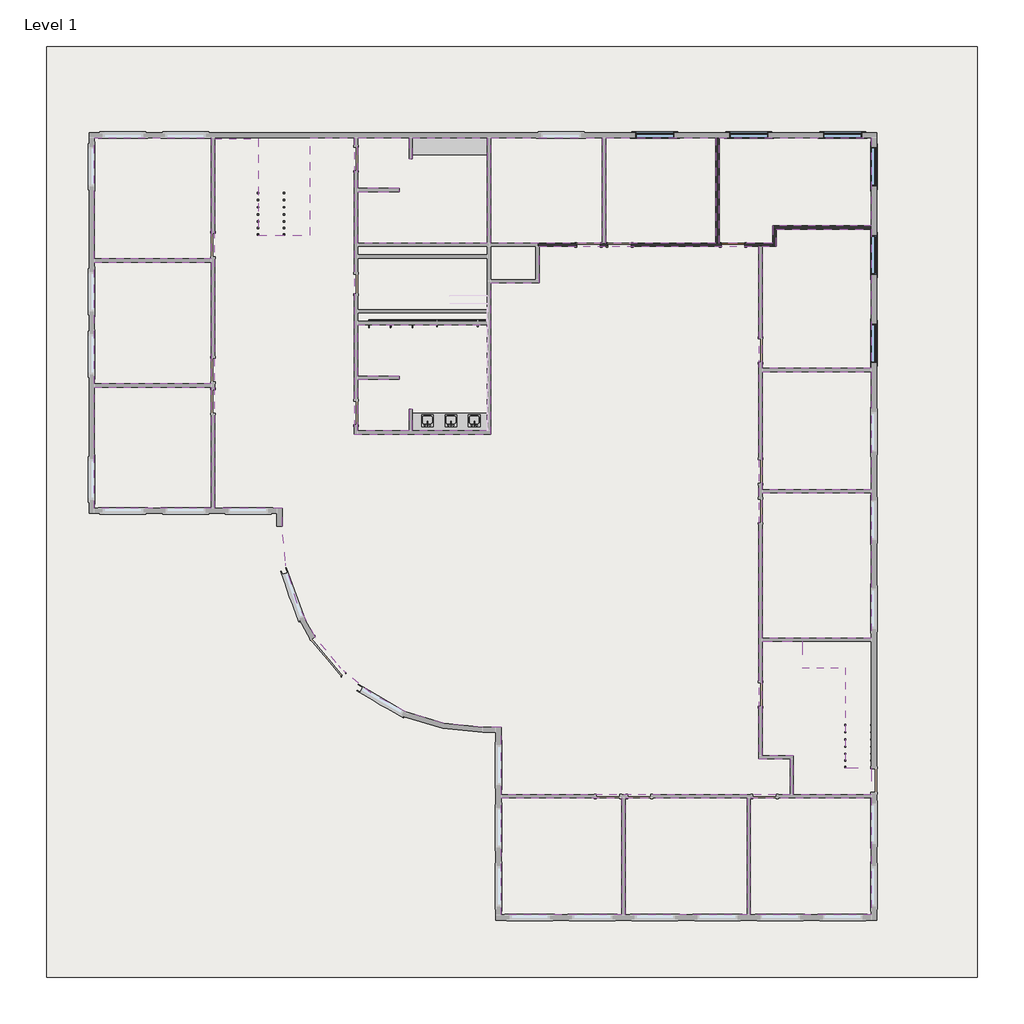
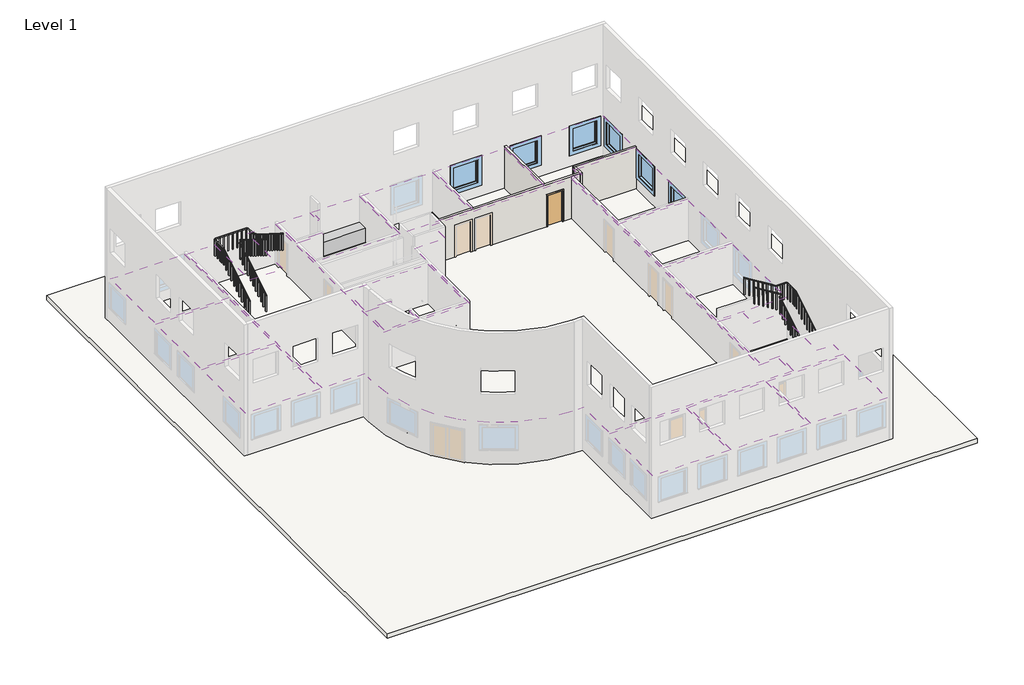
# One storey, part 3 of 4: 16 coverings, 14 pipe segments, 12 pipe fittings, 6 windows, 4 railings, 4 walls, 3 flow terminals, 2 furniture elements, 2 other elements.
"""IFC4 building model written with IfcOpenShell, lengths in millimetres."""

from ifc_helpers import new_model, si_unit, point, frame, frame_2d, origin, origin_with_axes, place, context, project, spatial, polyline, circle_curve, trimmed, segment, composite_curve, outline, extrude, faceted_brep, transform, mapped, element, save
from components import door_5c18bfee, sink_single_island_private_d5797e09, restroom_cabinet_restroom_cabinet_f470e7f9, restroom_cabinet2_restroom_cabinet_0fb46be3, pipe_elbow_standard_aad62f2d, pipe_elbow_standard_feaaf02c, pipe_tee_standard_ee363fbf, pipe_transition_eccentric_standard_c40806be, stairs_railing_1_c8549f34, stairs_railing_1_2e6ad486, stairs_railing_1_e688fe42, stairs_railing_1_87609967, fixed_edddcce4

model = new_model("IFC4")

# Units and contexts
model_context = context("Model", 3, world=origin())
ifc_project = project(units=[si_unit("LENGTHUNIT", "METRE", prefix="MILLI")], contexts=[model_context])

# Site, building, storey
site = spatial("IfcSite", under=ifc_project)
building = spatial("IfcBuilding", under=site)
storey = spatial("IfcBuildingStorey", under=building, Name="Level 1", Elevation=0.0)

# Coverings
placement = place(None, origin())
element("IfcCovering", 1, ObjectType="2' x 2' ACT System", at=placement, inside=storey, context=model_context, shape_type="SweptSolid", body=[
    extrude(outline(polyline([(-4905.3842504, 14991.2099268), (-344.4967504, 14991.2099268), (-344.4967504, 10279.5099268), (-4905.3842504, 10279.5099268), (-4905.3842504, 14991.2099268)])), frame((0.0, 0.0, 2590.8), z_axis=(0.0, 0.0, 1.0), x_axis=(1.0, 0.0, 0.0)), (0.0, 0.0, 1.0), 57.15),
])
element("IfcCovering", 2, ObjectType="2' x 2' ACT System", at=placement, inside=storey, context=model_context, shape_type="SweptSolid", body=[
    extrude(outline(polyline([(-344.4967504, 5402.7099268), (-4905.3842504, 5402.7099268), (-4905.3842504, 10152.5099268), (-344.4967504, 10152.5099268), (-344.4967504, 5402.7099268)])), frame((0.0, 0.0, 2590.8), z_axis=(0.0, 0.0, 1.0), x_axis=(1.0, 0.0, 0.0)), (0.0, 0.0, 1.0), 57.15),
])
element("IfcCovering", 3, ObjectType="2' x 2' ACT System", at=placement, inside=storey, context=model_context, shape_type="SweptSolid", body=[
    extrude(outline(polyline([(-4905.3842504, 564.0099268), (-4905.3842504, 5275.7099268), (-344.4967504, 5275.7099268), (-344.4967504, 564.0099268), (-4905.3842504, 564.0099268)])), frame((0.0, 0.0, 2590.8), z_axis=(0.0, 0.0, 1.0), x_axis=(1.0, 0.0, 0.0)), (0.0, 0.0, 1.0), 57.15),
])
element("IfcCovering", 4, ObjectType="2' x 2' ACT System", at=placement, inside=storey, context=model_context, shape_type="SweptSolid", body=[
    extrude(outline(composite_curve([segment(polyline([(-220.6717504, 564.0099268), (-220.6717504, 14958.3758882), (1474.1668833, 14958.3758882), (1474.1668833, 11199.1758882), (3514.168982, 11199.1758882), (3514.168982, 14991.2099268), (5229.2157496, 14991.2099268), (5229.2157496, 3446.9099268), (10537.8157496, 3446.9099268), (10537.8157496, 9339.7099268), (12430.1157496, 9339.7099268), (12430.1157496, 10762.1099268), (20989.9157496, 10762.1099268), (20989.9157496, -9202.2900732), (22209.1157496, -9202.2900732), (22209.1157496, -10599.2900732), (10944.2157496, -10599.2900732), (10944.2157496, -7970.3900732), (10233.0157496, -7970.3900732)]), True, "CONTINUOUS"), segment(trimmed(circle_curve(frame_2d((10233.0157496, -147.1900732)), 7823.2), [point((10233.0157496, -7970.3900732))], [point((2409.8157496, -147.1900732))], False, "CARTESIAN"), True, "CONTINUOUS"), segment(polyline([(2409.8157496, -147.1900732), (2409.8157496, 564.0099268), (-220.6717504, 564.0099268)]), True, "CONTINUOUS")], self_intersect=False)), frame((0.0, 0.0, 2590.8), z_axis=(0.0, 0.0, 1.0), x_axis=(1.0, 0.0, 0.0)), (0.0, 0.0, 1.0), 57.15),
])
element("IfcCovering", 5, ObjectType="2' x 2' ACT System", at=placement, inside=storey, context=model_context, shape_type="SweptSolid", body=[
    extrude(outline(polyline([(5356.2157496, 13022.7099268), (5356.2157496, 14991.2099268), (7362.8157496, 14991.2099268), (7362.8157496, 14178.4099268), (7489.8157496, 14178.4099268), (7489.8157496, 14991.2099268), (10410.8157496, 14991.2099268), (10410.8157496, 10889.1099268), (5356.2157496, 10889.1099268), (5356.2157496, 12895.7099268), (6969.1157496, 12895.7099268), (6969.1157496, 13022.7099268), (5356.2157496, 13022.7099268)])), frame((0.0, 0.0, 2590.8), z_axis=(0.0, 0.0, 1.0), x_axis=(1.0, 0.0, 0.0)), (0.0, 0.0, 1.0), 57.15),
])
element("IfcCovering", 6, ObjectType="2' x 2' ACT System", at=placement, inside=storey, context=model_context, shape_type="SweptSolid", body=[
    extrude(outline(polyline([(6969.1157496, 5707.5099268), (5356.2157496, 5707.5099268), (5356.2157496, 7714.1099268), (10410.8157496, 7714.1099268), (10410.8157496, 3573.9099268), (7489.8157496, 3573.9099268), (7489.8157496, 4424.8099268), (7362.8157496, 4424.8099268), (7362.8157496, 3573.9099268), (5356.2157496, 3573.9099268), (5356.2157496, 5580.5099268), (6969.1157496, 5580.5099268), (6969.1157496, 5707.5099268)])), frame((0.0, 0.0, 2590.8), z_axis=(0.0, 0.0, 1.0), x_axis=(1.0, 0.0, 0.0)), (0.0, 0.0, 1.0), 57.15),
])
element("IfcCovering", 7, ObjectType="2' x 2' ACT System", at=placement, inside=storey, context=model_context, shape_type="SweptSolid", body=[
    extrude(outline(polyline([(10537.8157496, 10889.1099268), (10537.8157496, 14991.2099268), (14893.9157496, 14991.2099268), (14893.9157496, 10889.1099268), (10537.8157496, 10889.1099268)])), frame((0.0, 0.0, 2590.8), z_axis=(0.0, 0.0, 1.0), x_axis=(1.0, 0.0, 0.0)), (0.0, 0.0, 1.0), 57.15),
])
element("IfcCovering", 8, ObjectType="2' x 2' ACT System", at=placement, inside=storey, context=model_context, shape_type="SweptSolid", body=[
    extrude(outline(polyline([(15020.9157496, 10889.1099268), (15020.9157496, 14991.2099268), (19313.5157496, 14991.2099268), (19313.5157496, 10889.1099268), (15020.9157496, 10889.1099268)])), frame((0.0, 0.0, 2590.8), z_axis=(0.0, 0.0, 1.0), x_axis=(1.0, 0.0, 0.0)), (0.0, 0.0, 1.0), 57.15),
])
element("IfcCovering", 9, ObjectType="2' x 2' ACT System", at=placement, inside=storey, context=model_context, shape_type="SweptSolid", body=[
    extrude(outline(polyline([(19440.5157496, 10889.1099268), (19440.5157496, 14991.2099268), (25371.4157496, 14991.2099268), (25371.4157496, 11559.8286768), (21536.0157496, 11559.8286768), (21536.0157496, 10889.1099268), (19440.5157496, 10889.1099268)])), frame((0.0, 0.0, 2590.8), z_axis=(0.0, 0.0, 1.0), x_axis=(1.0, 0.0, 0.0)), (0.0, 0.0, 1.0), 57.15),
])
element("IfcCovering", 10, ObjectType="2' x 2' ACT System", at=placement, inside=storey, context=model_context, shape_type="SweptSolid", body=[
    extrude(outline(polyline([(21663.0157496, 11432.8286768), (25371.4157496, 11432.8286768), (25371.4157496, 6012.3099268), (21116.9157496, 6012.3099268), (21116.9157496, 10762.1099268), (21663.0157496, 10762.1099268), (21663.0157496, 11432.8286768)])), frame((0.0, 0.0, 2590.8), z_axis=(0.0, 0.0, 1.0), x_axis=(1.0, 0.0, 0.0)), (0.0, 0.0, 1.0), 57.15),
])
element("IfcCovering", 11, ObjectType="2' x 2' ACT System", at=placement, inside=storey, context=model_context, shape_type="SweptSolid", body=[
    extrude(outline(polyline([(25371.4157496, 5885.3099268), (25371.4157496, 1287.9099268), (21116.9157496, 1287.9099268), (21116.9157496, 5885.3099268), (25371.4157496, 5885.3099268)])), frame((0.0, 0.0, 2590.8), z_axis=(0.0, 0.0, 1.0), x_axis=(1.0, 0.0, 0.0)), (0.0, 0.0, 1.0), 57.15),
])
element("IfcCovering", 12, ObjectType="2' x 2' ACT System", at=placement, inside=storey, context=model_context, shape_type="SweptSolid", body=[
    extrude(outline(polyline([(25371.4157496, 1160.9099268), (25371.4157496, -4503.2900732), (21116.9157496, -4503.2900732), (21116.9157496, 1160.9099268), (25371.4157496, 1160.9099268)])), frame((0.0, 0.0, 2590.8), z_axis=(0.0, 0.0, 1.0), x_axis=(1.0, 0.0, 0.0)), (0.0, 0.0, 1.0), 57.15),
])
element("IfcCovering", 13, ObjectType="2' x 2' ACT System", at=placement, inside=storey, context=model_context, shape_type="SweptSolid", body=[
    extrude(outline(polyline([(22679.0157496, -4630.2900732), (22679.0157496, -5654.4521901), (24355.4157496, -5654.4521901), (24355.4157496, -9540.6521901), (25371.4157496, -9540.6521901), (25371.4157496, -10599.2900732), (22336.1157496, -10599.2900732), (22336.1157496, -9075.2900732), (21116.9157496, -9075.2900732), (21116.9157496, -4630.2900732), (22679.0157496, -4630.2900732)])), frame((0.0, 0.0, 2590.8), z_axis=(0.0, 0.0, 1.0), x_axis=(1.0, 0.0, 0.0)), (0.0, 0.0, 1.0), 57.15),
])
element("IfcCovering", 14, ObjectType="2' x 2' ACT System", at=placement, inside=storey, context=model_context, shape_type="SweptSolid", body=[
    extrude(outline(polyline([(20659.7157496, -10726.2900732), (25371.4157496, -10726.2900732), (25371.4157496, -15285.5900732), (20659.7157496, -15285.5900732), (20659.7157496, -10726.2900732)])), frame((0.0, 0.0, 2590.8), z_axis=(0.0, 0.0, 1.0), x_axis=(1.0, 0.0, 0.0)), (0.0, 0.0, 1.0), 57.15),
])
element("IfcCovering", 15, ObjectType="2' x 2' ACT System", at=placement, inside=storey, context=model_context, shape_type="SweptSolid", body=[
    extrude(outline(polyline([(20532.7157496, -15285.5900732), (15782.9157496, -15285.5900732), (15782.9157496, -10726.2900732), (20532.7157496, -10726.2900732), (20532.7157496, -15285.5900732)])), frame((0.0, 0.0, 2590.8), z_axis=(0.0, 0.0, 1.0), x_axis=(1.0, 0.0, 0.0)), (0.0, 0.0, 1.0), 57.15),
])
element("IfcCovering", 16, ObjectType="2' x 2' ACT System", at=placement, inside=storey, context=model_context, shape_type="SweptSolid", body=[
    extrude(outline(polyline([(15655.9157496, -15285.5900732), (10944.2157496, -15285.5900732), (10944.2157496, -10726.2900732), (15655.9157496, -10726.2900732), (15655.9157496, -15285.5900732)])), frame((0.0, 0.0, 2590.8), z_axis=(0.0, 0.0, 1.0), x_axis=(1.0, 0.0, 0.0)), (0.0, 0.0, 1.0), 57.15),
])

# Door
door_shape = door_5c18bfee(model_context)
element("IfcDoor", 17, ObjectType="Sgl Flush : 36\" x 80\"", at=placement, inside=storey, context=model_context, shape_type="MappedRepresentation", body=[
    mapped(door_shape, transform((19986.6157496, 10825.6099268, 0.0), x_axis=(-1.0, 0.0, 0.0), y_axis=(0.0, -1.0, 0.0), z_axis=(0.0, 0.0, 1.0))),
])

# Flow terminals
sink_single_island_private_shape = sink_single_island_private_d5797e09(model_context)
element("IfcFlowTerminal", 18, ObjectType="Sink - Single Island : Private", at=placement, inside=storey, context=model_context, shape_type="MappedRepresentation", body=[
    mapped(sink_single_island_private_shape, transform((8074.0157496, 3967.6099268, 914.4), x_axis=(-1.0, 0.0, 0.0), y_axis=(0.0, -1.0, 0.0), z_axis=(0.0, 0.0, 1.0))),
])
element("IfcFlowTerminal", 19, ObjectType="Sink - Single Island : Private", at=placement, inside=storey, context=model_context, shape_type="MappedRepresentation", body=[
    mapped(sink_single_island_private_shape, transform((8988.4157496, 3967.6099268, 914.4), x_axis=(-1.0, 0.0, 0.0), y_axis=(0.0, -1.0, 0.0), z_axis=(0.0, 0.0, 1.0))),
])
element("IfcFlowTerminal", 20, ObjectType="Sink - Single Island : Private", at=placement, inside=storey, context=model_context, shape_type="MappedRepresentation", body=[
    mapped(sink_single_island_private_shape, transform((9902.8157496, 3967.6099268, 914.4), x_axis=(-1.0, 0.0, 0.0), y_axis=(0.0, -1.0, 0.0), z_axis=(0.0, 0.0, 1.0))),
])

# Furniture
restroom_cabinet_restroom_cabinet_shape = restroom_cabinet_restroom_cabinet_f470e7f9(model_context)
element("IfcFurniture", 21, ObjectType="Restroom Cabinet : Restroom Cabinet", at=placement, inside=storey, context=model_context, shape_type="MappedRepresentation", body=[
    mapped(restroom_cabinet_restroom_cabinet_shape, transform((0.0, 0.0, 0.0), x_axis=(1.0, 0.0, 0.0), y_axis=(0.0, 1.0, 0.0), z_axis=(0.0, 0.0, 1.0))),
])
restroom_cabinet2_restroom_cabinet_shape = restroom_cabinet2_restroom_cabinet_0fb46be3(model_context)
element("IfcFurniture", 22, ObjectType="Restroom Cabinet2 : Restroom Cabinet", at=placement, inside=storey, context=model_context, shape_type="MappedRepresentation", body=[
    mapped(restroom_cabinet2_restroom_cabinet_shape, transform((141.4980289, -20.9577736, 0.0), x_axis=(1.0, 0.0, 0.0), y_axis=(0.0, 1.0, 0.0), z_axis=(0.0, 0.0, 1.0))),
])

# Pipe fittings
pipe_elbow_standard_shape = pipe_elbow_standard_aad62f2d(model_context)
element("IfcPipeFitting", 23, ObjectType="Pipe Elbow : Standard", at=placement, inside=storey, context=model_context, shape_type="MappedRepresentation", body=[
    mapped(pipe_elbow_standard_shape, transform((8175.6157496, 3793.5640359, 863.6), x_axis=(0.0, 0.0, -1.0), y_axis=(0.0, -1.0, 0.0), z_axis=(-1.0, 0.0, 0.0))),
])
element("IfcPipeFitting", 24, ObjectType="Pipe Elbow : Standard", at=placement, inside=storey, context=model_context, shape_type="MappedRepresentation", body=[
    mapped(pipe_elbow_standard_shape, transform((7972.4157496, 3793.5640359, 762.0), x_axis=(0.0, 0.0, -1.0), y_axis=(0.0, -1.0, 0.0), z_axis=(-1.0, 0.0, 0.0))),
])
pipe_elbow_standard_2_shape = pipe_elbow_standard_feaaf02c(model_context)
element("IfcPipeFitting", 25, ObjectType="Pipe Elbow : Standard", at=placement, inside=storey, context=model_context, shape_type="MappedRepresentation", body=[
    mapped(pipe_elbow_standard_2_shape, transform((8175.6157496, 3596.9672657, 863.6), x_axis=(0.0, -1.0, 0.0), y_axis=(1.0, 0.0, 0.0), z_axis=(0.0, 0.0, 1.0))),
])
element("IfcPipeFitting", 26, ObjectType="Pipe Elbow : Standard", at=placement, inside=storey, context=model_context, shape_type="MappedRepresentation", body=[
    mapped(pipe_elbow_standard_2_shape, transform((7489.8157496, 7611.3193018, 1021.5562398), x_axis=(0.0, 0.0, 1.0), y_axis=(0.0, 1.0, 0.0), z_axis=(-1.0, 0.0, 0.0))),
])
element("IfcPipeFitting", 27, ObjectType="Pipe Elbow : Standard", at=placement, inside=storey, context=model_context, shape_type="MappedRepresentation", body=[
    mapped(pipe_elbow_standard_2_shape, transform((5800.3032049, 7611.3193018, 1021.5562398), x_axis=(0.0, -1.0, 0.0), y_axis=(0.0, 0.0, -1.0), z_axis=(1.0, 0.0, 0.0))),
])
element("IfcPipeFitting", 28, ObjectType="Pipe Elbow : Standard", at=placement, inside=storey, context=model_context, shape_type="MappedRepresentation", body=[
    mapped(pipe_elbow_standard_2_shape, transform((6645.0594773, 7611.3193018, 1021.5562398), x_axis=(0.0, -1.0, 0.0), y_axis=(0.0, 0.0, -1.0), z_axis=(1.0, 0.0, 0.0))),
])
element("IfcPipeFitting", 29, ObjectType="Pipe Elbow : Standard", at=placement, inside=storey, context=model_context, shape_type="MappedRepresentation", body=[
    mapped(pipe_elbow_standard_2_shape, transform((5800.3032049, 7897.6573915, 1021.5562398), x_axis=(-1.0, 0.0, 0.0), y_axis=(0.0, -1.0, 0.0), z_axis=(0.0, 0.0, 1.0))),
])
element("IfcPipeFitting", 30, ObjectType="Pipe Elbow : Standard", at=placement, inside=storey, context=model_context, shape_type="MappedRepresentation", body=[
    mapped(pipe_elbow_standard_2_shape, transform((7972.4157496, 3660.4672657, 762.0), x_axis=(0.0, -1.0, 0.0), y_axis=(1.0, 0.0, 0.0), z_axis=(0.0, 0.0, 1.0))),
])
pipe_tee_standard_shape = pipe_tee_standard_ee363fbf(model_context)
element("IfcPipeFitting", 31, ObjectType="Pipe Tee : Standard", at=placement, inside=storey, context=model_context, shape_type="MappedRepresentation", body=[
    mapped(pipe_tee_standard_shape, transform((7489.8157496, 7897.6573915, 1021.5562398), x_axis=(-1.0, 0.0, 0.0), y_axis=(0.0, 1.0, 0.0), z_axis=(0.0, 0.0, -1.0))),
])
element("IfcPipeFitting", 32, ObjectType="Pipe Tee : Standard", at=placement, inside=storey, context=model_context, shape_type="MappedRepresentation", body=[
    mapped(pipe_tee_standard_shape, transform((6645.0594773, 7897.6573915, 1021.5562398), x_axis=(1.0, 0.0, 0.0), y_axis=(0.0, 1.0, 0.0), z_axis=(0.0, 0.0, 1.0))),
])
pipe_transition_eccentric_standard_shape = pipe_transition_eccentric_standard_c40806be(model_context)
element("IfcPipeFitting", 33, ObjectType="Pipe Transition Eccentric : Standard", at=placement, inside=storey, context=model_context, shape_type="MappedRepresentation", body=[
    mapped(pipe_transition_eccentric_standard_shape, transform((8175.6157496, 3617.6047657, 863.6), x_axis=(0.0, 1.0, 0.0), y_axis=(-1.0, 0.0, 0.0), z_axis=(0.0, 0.0, 1.0))),
])
element("IfcPipeFitting", 34, ObjectType="Pipe Transition Eccentric : Standard", at=placement, inside=storey, context=model_context, shape_type="MappedRepresentation", body=[
    mapped(pipe_transition_eccentric_standard_shape, transform((7972.4157496, 3681.1047657, 762.0), x_axis=(0.0, 1.0, 0.0), y_axis=(-1.0, 0.0, 0.0), z_axis=(0.0, 0.0, 1.0))),
])

# Pipe segments
element("IfcPipeSegment", 35, ObjectType="Hot Water", at=placement, inside=storey, context=model_context, shape_type="SweptSolid", body=[
    extrude(outline(composite_curve([segment(trimmed(circle_curve(frame_2d((8175.6157496, 3793.5640359)), 7.9375), [point((8183.5532496, 3793.5640359))], [point((8175.6157496, 3785.6265359))], False, "CARTESIAN"), True, "CONTINUOUS"), segment(trimmed(circle_curve(frame_2d((8175.6157496, 3793.5640359)), 7.9375), [point((8175.6157496, 3785.6265359))], [point((8167.6782496, 3793.5640359))], False, "CARTESIAN"), True, "CONTINUOUS"), segment(trimmed(circle_curve(frame_2d((8175.6157496, 3793.5640359)), 7.9375), [point((8167.6782496, 3793.5640359))], [point((8175.6157496, 3801.5015359))], False, "CARTESIAN"), True, "CONTINUOUS"), segment(trimmed(circle_curve(frame_2d((8175.6157496, 3793.5640359)), 7.9375), [point((8175.6157496, 3801.5015359))], [point((8183.5532496, 3793.5640359))], False, "CARTESIAN"), True, "CONTINUOUS")], self_intersect=False)), frame((0.0, 0.0, 881.0625), z_axis=(0.0, 0.0, 1.0), x_axis=(1.0, 0.0, 0.0)), (0.0, 0.0, 1.0), 33.3375),
])
element("IfcPipeSegment", 36, ObjectType="Hot Water", at=placement, inside=storey, context=model_context, shape_type="SweptSolid", body=[
    extrude(outline(composite_curve([segment(trimmed(circle_curve(frame_2d((863.6, 8175.6157496)), 7.9375), [point((863.6, 8167.6782496))], [point((855.6625, 8175.6157496))], False, "CARTESIAN"), True, "CONTINUOUS"), segment(trimmed(circle_curve(frame_2d((863.6, 8175.6157496)), 7.9375), [point((855.6625, 8175.6157496))], [point((863.6, 8183.5532496))], False, "CARTESIAN"), True, "CONTINUOUS"), segment(trimmed(circle_curve(frame_2d((863.6, 8175.6157496)), 7.9375), [point((863.6, 8183.5532496))], [point((871.5375, 8175.6157496))], False, "CARTESIAN"), True, "CONTINUOUS"), segment(trimmed(circle_curve(frame_2d((863.6, 8175.6157496)), 7.9375), [point((871.5375, 8175.6157496))], [point((863.6, 8167.6782496))], False, "CARTESIAN"), True, "CONTINUOUS")], self_intersect=False)), frame((0.0, 3623.1610157, 0.0), z_axis=(0.0, 1.0, 0.0), x_axis=(0.0, 0.0, 1.0)), (0.0, 0.0, 1.0), 152.9405202),
])
element("IfcPipeSegment", 37, ObjectType="Hot Water", at=placement, inside=storey, context=model_context, shape_type="SweptSolid", body=[
    extrude(outline(composite_curve([segment(trimmed(circle_curve(frame_2d((3596.9672657, 863.6)), 11.1125), [point((3585.8547657, 863.6))], [point((3596.9672657, 874.7125))], False, "CARTESIAN"), True, "CONTINUOUS"), segment(trimmed(circle_curve(frame_2d((3596.9672657, 863.6)), 11.1125), [point((3596.9672657, 874.7125))], [point((3608.0797657, 863.6))], False, "CARTESIAN"), True, "CONTINUOUS"), segment(trimmed(circle_curve(frame_2d((3596.9672657, 863.6)), 11.1125), [point((3608.0797657, 863.6))], [point((3596.9672657, 852.4875))], False, "CARTESIAN"), True, "CONTINUOUS"), segment(trimmed(circle_curve(frame_2d((3596.9672657, 863.6)), 11.1125), [point((3596.9672657, 852.4875))], [point((3585.8547657, 863.6))], False, "CARTESIAN"), True, "CONTINUOUS")], self_intersect=False)), frame((8196.2532496, 0.0, 0.0), z_axis=(1.0, 0.0, 0.0), x_axis=(0.0, 1.0, 0.0)), (0.0, 0.0, 1.0), 866.775),
])
element("IfcPipeSegment", 38, ObjectType="Hot Water", at=placement, inside=storey, context=model_context, shape_type="SweptSolid", body=[
    extrude(outline(composite_curve([segment(trimmed(circle_curve(frame_2d((7489.8157496, 7611.3193018)), 11.1125), [point((7478.7032496, 7611.3193018))], [point((7489.8157496, 7622.4318018))], False, "CARTESIAN"), True, "CONTINUOUS"), segment(trimmed(circle_curve(frame_2d((7489.8157496, 7611.3193018)), 11.1125), [point((7489.8157496, 7622.4318018))], [point((7500.9282496, 7611.3193018))], False, "CARTESIAN"), True, "CONTINUOUS"), segment(trimmed(circle_curve(frame_2d((7489.8157496, 7611.3193018)), 11.1125), [point((7500.9282496, 7611.3193018))], [point((7489.8157496, 7600.2068018))], False, "CARTESIAN"), True, "CONTINUOUS"), segment(trimmed(circle_curve(frame_2d((7489.8157496, 7611.3193018)), 11.1125), [point((7489.8157496, 7600.2068018))], [point((7478.7032496, 7611.3193018))], False, "CARTESIAN"), True, "CONTINUOUS")], self_intersect=False)), frame((0.0, 0.0, 975.51875), z_axis=(0.0, 0.0, 1.0), x_axis=(1.0, 0.0, 0.0)), (0.0, 0.0, 1.0), 25.3999898),
])
element("IfcPipeSegment", 39, ObjectType="Hot Water", at=placement, inside=storey, context=model_context, shape_type="SweptSolid", body=[
    extrude(outline(composite_curve([segment(trimmed(circle_curve(frame_2d((1021.5562398, 7489.8157496)), 11.1125), [point((1021.5562398, 7500.9282496))], [point((1032.6687398, 7489.8157496))], False, "CARTESIAN"), True, "CONTINUOUS"), segment(trimmed(circle_curve(frame_2d((1021.5562398, 7489.8157496)), 11.1125), [point((1032.6687398, 7489.8157496))], [point((1021.5562398, 7478.7032496))], False, "CARTESIAN"), True, "CONTINUOUS"), segment(trimmed(circle_curve(frame_2d((1021.5562398, 7489.8157496)), 11.1125), [point((1021.5562398, 7478.7032496))], [point((1010.4437398, 7489.8157496))], False, "CARTESIAN"), True, "CONTINUOUS"), segment(trimmed(circle_curve(frame_2d((1021.5562398, 7489.8157496)), 11.1125), [point((1010.4437398, 7489.8157496))], [point((1021.5562398, 7500.9282496))], False, "CARTESIAN"), True, "CONTINUOUS")], self_intersect=False)), frame((0.0, 7631.9568018, 0.0), z_axis=(0.0, 1.0, 0.0), x_axis=(0.0, 0.0, 1.0)), (0.0, 0.0, 1.0), 238.7130897),
])
element("IfcPipeSegment", 40, ObjectType="Hot Water", at=placement, inside=storey, context=model_context, shape_type="SweptSolid", body=[
    extrude(outline(composite_curve([segment(trimmed(circle_curve(frame_2d((5800.3032049, 7611.3193018)), 11.1125), [point((5789.1907049, 7611.3193018))], [point((5800.3032049, 7622.4318018))], False, "CARTESIAN"), True, "CONTINUOUS"), segment(trimmed(circle_curve(frame_2d((5800.3032049, 7611.3193018)), 11.1125), [point((5800.3032049, 7622.4318018))], [point((5811.4157049, 7611.3193018))], False, "CARTESIAN"), True, "CONTINUOUS"), segment(trimmed(circle_curve(frame_2d((5800.3032049, 7611.3193018)), 11.1125), [point((5811.4157049, 7611.3193018))], [point((5800.3032049, 7600.2068018))], False, "CARTESIAN"), True, "CONTINUOUS"), segment(trimmed(circle_curve(frame_2d((5800.3032049, 7611.3193018)), 11.1125), [point((5800.3032049, 7600.2068018))], [point((5789.1907049, 7611.3193018))], False, "CARTESIAN"), True, "CONTINUOUS")], self_intersect=False)), frame((0.0, 0.0, 975.51875), z_axis=(0.0, 0.0, 1.0), x_axis=(1.0, 0.0, 0.0)), (0.0, 0.0, 1.0), 25.3999898),
])
element("IfcPipeSegment", 41, ObjectType="Hot Water", at=placement, inside=storey, context=model_context, shape_type="SweptSolid", body=[
    extrude(outline(composite_curve([segment(trimmed(circle_curve(frame_2d((1021.5562398, 5800.3032049)), 11.1125), [point((1021.5562398, 5789.1907049))], [point((1010.4437398, 5800.3032049))], False, "CARTESIAN"), True, "CONTINUOUS"), segment(trimmed(circle_curve(frame_2d((1021.5562398, 5800.3032049)), 11.1125), [point((1010.4437398, 5800.3032049))], [point((1021.5562398, 5811.4157049))], False, "CARTESIAN"), True, "CONTINUOUS"), segment(trimmed(circle_curve(frame_2d((1021.5562398, 5800.3032049)), 11.1125), [point((1021.5562398, 5811.4157049))], [point((1032.6687398, 5800.3032049))], False, "CARTESIAN"), True, "CONTINUOUS"), segment(trimmed(circle_curve(frame_2d((1021.5562398, 5800.3032049)), 11.1125), [point((1032.6687398, 5800.3032049))], [point((1021.5562398, 5789.1907049))], False, "CARTESIAN"), True, "CONTINUOUS")], self_intersect=False)), frame((0.0, 7631.9568018, 0.0), z_axis=(0.0, 1.0, 0.0), x_axis=(0.0, 0.0, 1.0)), (0.0, 0.0, 1.0), 245.0630897),
])
element("IfcPipeSegment", 42, ObjectType="Hot Water", at=placement, inside=storey, context=model_context, shape_type="SweptSolid", body=[
    extrude(outline(composite_curve([segment(trimmed(circle_curve(frame_2d((7897.6573915, 1021.5562398)), 11.1125), [point((7908.7698915, 1021.5562398))], [point((7897.6573915, 1010.4437398))], False, "CARTESIAN"), True, "CONTINUOUS"), segment(trimmed(circle_curve(frame_2d((7897.6573915, 1021.5562398)), 11.1125), [point((7897.6573915, 1010.4437398))], [point((7886.5448915, 1021.5562398))], False, "CARTESIAN"), True, "CONTINUOUS"), segment(trimmed(circle_curve(frame_2d((7897.6573915, 1021.5562398)), 11.1125), [point((7886.5448915, 1021.5562398))], [point((7897.6573915, 1032.6687398))], False, "CARTESIAN"), True, "CONTINUOUS"), segment(trimmed(circle_curve(frame_2d((7897.6573915, 1021.5562398)), 11.1125), [point((7897.6573915, 1032.6687398))], [point((7908.7698915, 1021.5562398))], False, "CARTESIAN"), True, "CONTINUOUS")], self_intersect=False)), frame((5820.9407049, 0.0, 0.0), z_axis=(1.0, 0.0, 0.0), x_axis=(0.0, 1.0, 0.0)), (0.0, 0.0, 1.0), 797.1312724),
])
element("IfcPipeSegment", 43, ObjectType="Hot Water", at=placement, inside=storey, context=model_context, shape_type="SweptSolid", body=[
    extrude(outline(composite_curve([segment(trimmed(circle_curve(frame_2d((6645.0594773, 7611.3193018)), 11.1125), [point((6633.9469773, 7611.3193018))], [point((6645.0594773, 7622.4318018))], False, "CARTESIAN"), True, "CONTINUOUS"), segment(trimmed(circle_curve(frame_2d((6645.0594773, 7611.3193018)), 11.1125), [point((6645.0594773, 7622.4318018))], [point((6656.1719773, 7611.3193018))], False, "CARTESIAN"), True, "CONTINUOUS"), segment(trimmed(circle_curve(frame_2d((6645.0594773, 7611.3193018)), 11.1125), [point((6656.1719773, 7611.3193018))], [point((6645.0594773, 7600.2068018))], False, "CARTESIAN"), True, "CONTINUOUS"), segment(trimmed(circle_curve(frame_2d((6645.0594773, 7611.3193018)), 11.1125), [point((6645.0594773, 7600.2068018))], [point((6633.9469773, 7611.3193018))], False, "CARTESIAN"), True, "CONTINUOUS")], self_intersect=False)), frame((0.0, 0.0, 975.51875), z_axis=(0.0, 0.0, 1.0), x_axis=(1.0, 0.0, 0.0)), (0.0, 0.0, 1.0), 25.3999898),
])
element("IfcPipeSegment", 44, ObjectType="Hot Water", at=placement, inside=storey, context=model_context, shape_type="SweptSolid", body=[
    extrude(outline(composite_curve([segment(trimmed(circle_curve(frame_2d((1021.5562398, 6645.0594773)), 11.1125), [point((1021.5562398, 6633.9469773))], [point((1010.4437398, 6645.0594773))], False, "CARTESIAN"), True, "CONTINUOUS"), segment(trimmed(circle_curve(frame_2d((1021.5562398, 6645.0594773)), 11.1125), [point((1010.4437398, 6645.0594773))], [point((1021.5562398, 6656.1719773))], False, "CARTESIAN"), True, "CONTINUOUS"), segment(trimmed(circle_curve(frame_2d((1021.5562398, 6645.0594773)), 11.1125), [point((1021.5562398, 6656.1719773))], [point((1032.6687398, 6645.0594773))], False, "CARTESIAN"), True, "CONTINUOUS"), segment(trimmed(circle_curve(frame_2d((1021.5562398, 6645.0594773)), 11.1125), [point((1032.6687398, 6645.0594773))], [point((1021.5562398, 6633.9469773))], False, "CARTESIAN"), True, "CONTINUOUS")], self_intersect=False)), frame((0.0, 7631.9568018, 0.0), z_axis=(0.0, 1.0, 0.0), x_axis=(0.0, 0.0, 1.0)), (0.0, 0.0, 1.0), 238.7130897),
])
element("IfcPipeSegment", 45, ObjectType="Hot Water", at=placement, inside=storey, context=model_context, shape_type="SweptSolid", body=[
    extrude(outline(composite_curve([segment(trimmed(circle_curve(frame_2d((7897.6573915, 1021.5562398)), 11.1125), [point((7908.7698915, 1021.5562398))], [point((7897.6573915, 1010.4437398))], False, "CARTESIAN"), True, "CONTINUOUS"), segment(trimmed(circle_curve(frame_2d((7897.6573915, 1021.5562398)), 11.1125), [point((7897.6573915, 1010.4437398))], [point((7886.5448915, 1021.5562398))], False, "CARTESIAN"), True, "CONTINUOUS"), segment(trimmed(circle_curve(frame_2d((7897.6573915, 1021.5562398)), 11.1125), [point((7886.5448915, 1021.5562398))], [point((7897.6573915, 1032.6687398))], False, "CARTESIAN"), True, "CONTINUOUS"), segment(trimmed(circle_curve(frame_2d((7897.6573915, 1021.5562398)), 11.1125), [point((7897.6573915, 1032.6687398))], [point((7908.7698915, 1021.5562398))], False, "CARTESIAN"), True, "CONTINUOUS")], self_intersect=False)), frame((6672.0469773, 0.0, 0.0), z_axis=(1.0, 0.0, 0.0), x_axis=(0.0, 1.0, 0.0)), (0.0, 0.0, 1.0), 790.7812724),
])
element("IfcPipeSegment", 46, ObjectType="Hot Water", at=placement, inside=storey, context=model_context, shape_type="SweptSolid", body=[
    extrude(outline(composite_curve([segment(trimmed(circle_curve(frame_2d((7972.4157496, 3793.5640359)), 7.9375), [point((7980.3532496, 3793.5640359))], [point((7972.4157496, 3785.6265359))], False, "CARTESIAN"), True, "CONTINUOUS"), segment(trimmed(circle_curve(frame_2d((7972.4157496, 3793.5640359)), 7.9375), [point((7972.4157496, 3785.6265359))], [point((7964.4782496, 3793.5640359))], False, "CARTESIAN"), True, "CONTINUOUS"), segment(trimmed(circle_curve(frame_2d((7972.4157496, 3793.5640359)), 7.9375), [point((7964.4782496, 3793.5640359))], [point((7972.4157496, 3801.5015359))], False, "CARTESIAN"), True, "CONTINUOUS"), segment(trimmed(circle_curve(frame_2d((7972.4157496, 3793.5640359)), 7.9375), [point((7972.4157496, 3801.5015359))], [point((7980.3532496, 3793.5640359))], False, "CARTESIAN"), True, "CONTINUOUS")], self_intersect=False)), frame((0.0, 0.0, 779.4625), z_axis=(0.0, 0.0, 1.0), x_axis=(1.0, 0.0, 0.0)), (0.0, 0.0, 1.0), 134.9375),
])
element("IfcPipeSegment", 47, ObjectType="Hot Water", at=placement, inside=storey, context=model_context, shape_type="SweptSolid", body=[
    extrude(outline(composite_curve([segment(trimmed(circle_curve(frame_2d((762.0, 7972.4157496)), 7.9375), [point((762.0, 7964.4782496))], [point((754.0625, 7972.4157496))], False, "CARTESIAN"), True, "CONTINUOUS"), segment(trimmed(circle_curve(frame_2d((762.0, 7972.4157496)), 7.9375), [point((754.0625, 7972.4157496))], [point((762.0, 7980.3532496))], False, "CARTESIAN"), True, "CONTINUOUS"), segment(trimmed(circle_curve(frame_2d((762.0, 7972.4157496)), 7.9375), [point((762.0, 7980.3532496))], [point((769.9375, 7972.4157496))], False, "CARTESIAN"), True, "CONTINUOUS"), segment(trimmed(circle_curve(frame_2d((762.0, 7972.4157496)), 7.9375), [point((769.9375, 7972.4157496))], [point((762.0, 7964.4782496))], False, "CARTESIAN"), True, "CONTINUOUS")], self_intersect=False)), frame((0.0, 3686.6610157, 0.0), z_axis=(0.0, 1.0, 0.0), x_axis=(0.0, 0.0, 1.0)), (0.0, 0.0, 1.0), 89.4405202),
])
element("IfcPipeSegment", 48, ObjectType="Hot Water", at=placement, inside=storey, context=model_context, shape_type="SweptSolid", body=[
    extrude(outline(composite_curve([segment(trimmed(circle_curve(frame_2d((8886.8157496, 3793.5640359)), 7.9375), [point((8894.7532496, 3793.5640359))], [point((8886.8157496, 3785.6265359))], False, "CARTESIAN"), True, "CONTINUOUS"), segment(trimmed(circle_curve(frame_2d((8886.8157496, 3793.5640359)), 7.9375), [point((8886.8157496, 3785.6265359))], [point((8878.8782496, 3793.5640359))], False, "CARTESIAN"), True, "CONTINUOUS"), segment(trimmed(circle_curve(frame_2d((8886.8157496, 3793.5640359)), 7.9375), [point((8878.8782496, 3793.5640359))], [point((8886.8157496, 3801.5015359))], False, "CARTESIAN"), True, "CONTINUOUS"), segment(trimmed(circle_curve(frame_2d((8886.8157496, 3793.5640359)), 7.9375), [point((8886.8157496, 3801.5015359))], [point((8894.7532496, 3793.5640359))], False, "CARTESIAN"), True, "CONTINUOUS")], self_intersect=False)), frame((0.0, 0.0, 779.4625), z_axis=(0.0, 0.0, 1.0), x_axis=(1.0, 0.0, 0.0)), (0.0, 0.0, 1.0), 134.9375),
])

# Railings
stairs_railing_1_shape = stairs_railing_1_c8549f34(model_context)
element("IfcRailing", 49, ObjectType="Stairs Railing 1", at=placement, inside=storey, context=model_context, shape_type="MappedRepresentation", body=[
    mapped(stairs_railing_1_shape, transform((0.0, 0.0, 0.0), x_axis=(1.0, 0.0, 0.0), y_axis=(0.0, 1.0, 0.0), z_axis=(0.0, 0.0, 1.0))),
])
stairs_railing_1_2_shape = stairs_railing_1_2e6ad486(model_context)
element("IfcRailing", 50, ObjectType="Stairs Railing 1", at=placement, inside=storey, context=model_context, shape_type="MappedRepresentation", body=[
    mapped(stairs_railing_1_2_shape, transform((0.0, 0.0, 0.0), x_axis=(1.0, 0.0, 0.0), y_axis=(0.0, 1.0, 0.0), z_axis=(0.0, 0.0, 1.0))),
])
stairs_railing_1_3_shape = stairs_railing_1_e688fe42(model_context)
element("IfcRailing", 51, ObjectType="Stairs Railing 1", at=placement, inside=storey, context=model_context, shape_type="MappedRepresentation", body=[
    mapped(stairs_railing_1_3_shape, transform((0.0, 0.0, 0.0), x_axis=(1.0, 0.0, 0.0), y_axis=(0.0, 1.0, 0.0), z_axis=(0.0, 0.0, 1.0))),
])
stairs_railing_1_4_shape = stairs_railing_1_87609967(model_context)
element("IfcRailing", 52, ObjectType="Stairs Railing 1", at=placement, inside=storey, context=model_context, shape_type="MappedRepresentation", body=[
    mapped(stairs_railing_1_4_shape, transform((0.0, 0.0, 0.0), x_axis=(1.0, 0.0, 0.0), y_axis=(0.0, 1.0, 0.0), z_axis=(0.0, 0.0, 1.0))),
])

# Slab
element("IfcSlab", 53, ObjectType="Floor 1", at=placement, inside=storey, context=model_context, shape_type="SweptSolid", body=[
    extrude(outline(polyline([(29505.8994226, 18551.1781238), (29505.8994226, -17720.0218762), (-6765.3005774, -17720.0218762), (-6765.3005774, 18551.1781238), (29505.8994226, 18551.1781238)])), frame((0.0, 0.0, -304.8), z_axis=(0.0, 0.0, 1.0), x_axis=(1.0, 0.0, 0.0)), (0.0, 0.0, 1.0), 304.8),
])

# Walls
element("IfcWall", 54, ObjectType="Interior - 5\" Partition (2-hr)", at=placement, inside=storey, context=model_context, shape_type="SweptSolid", body=[
    extrude(outline(polyline([(19313.5157496, 10889.1099268), (19313.5157496, 14991.2099268), (19440.5157496, 14991.2099268), (19440.5157496, 10889.1099268), (19313.5157496, 10889.1099268)])), origin_with_axes(), (0.0, 0.0, 1.0), 2743.2),
])
element("IfcWall", 55, ObjectType="Interior - 5\" Partition (2-hr)", at=placement, inside=storey, context=model_context, shape_type="Brep", body=[
    faceted_brep([(25371.4157496, 11559.8286768, 0.0), (21536.0157496, 11559.8286768, 0.0), (21536.0157496, 11559.8286768, 2743.2), (25371.4157496, 11559.8286768, 2743.2), (25371.4157496, 11432.8286768, 0.0), (25371.4157496, 11432.8286768, 2743.2), (21663.0157496, 11432.8286768, 2743.2), (21536.0157496, 11432.8286768, 2743.2), (21536.0157496, 11432.8286768, 0.0), (21663.0157496, 11432.8286768, 0.0)], [[[0, 1, 2, 3]], [[4, 5, 6, 7, 8, 9]], [[1, 0, 4, 9, 8]], [[3, 2, 7, 6, 5]], [[2, 1, 8, 7]], [[0, 3, 5, 4]]]),
])
element("IfcWall", 56, ObjectType="Interior - 5\" Partition (2-hr)", at=placement, inside=storey, context=model_context, shape_type="Brep", body=[
    faceted_brep([(21536.0157496, 11432.8286768, 0.0), (21536.0157496, 10889.1099268, 0.0), (21536.0157496, 10762.1099268, 0.0), (21536.0157496, 10762.1099268, 2743.2), (21536.0157496, 10889.1099268, 2743.2), (21536.0157496, 11432.8286768, 2743.2), (21663.0157496, 11432.8286768, 0.0), (21663.0157496, 11432.8286768, 2743.2), (21663.0157496, 10762.1099268, 2743.2), (21663.0157496, 10762.1099268, 0.0)], [[[0, 1, 2, 3, 4, 5]], [[6, 7, 8, 9]], [[2, 1, 0, 6, 9]], [[5, 4, 3, 8, 7]], [[3, 2, 9, 8]], [[0, 5, 7, 6]]]),
])
element("IfcWall", 57, ObjectType="Interior - 5\" Partition (2-hr)", at=placement, inside=storey, context=model_context, shape_type="Brep", body=[
    faceted_brep([(14805.0157496, 10762.1099268, 2032.0), (14805.0157496, 10762.1099268, 0.0), (15109.8157496, 10762.1099268, 0.0), (15109.8157496, 10762.1099268, 2032.0), (16024.2157496, 10762.1099268, 2032.0), (16024.2157496, 10762.1099268, 0.0), (19529.4157496, 10762.1099268, 0.0), (19529.4157496, 10762.1099268, 2032.0), (20443.8157496, 10762.1099268, 2032.0), (20443.8157496, 10762.1099268, 0.0), (20989.9157496, 10762.1099268, 0.0), (21116.9157496, 10762.1099268, 0.0), (21536.0157496, 10762.1099268, 0.0), (21536.0157496, 10762.1099268, 2743.2), (21116.9157496, 10762.1099268, 2743.2), (20989.9157496, 10762.1099268, 2743.2), (12430.1157496, 10762.1099268, 2743.2), (12366.6157496, 10762.1099268, 2743.2), (12366.6157496, 10762.1099268, 0.0), (12430.1157496, 10762.1099268, 0.0), (13890.6157496, 10762.1099268, 0.0), (13890.6157496, 10762.1099268, 2032.0), (15109.8157496, 10889.1099268, 0.0), (15020.9157496, 10889.1099268, 0.0), (14893.9157496, 10889.1099268, 0.0), (14805.0157496, 10889.1099268, 0.0), (14805.0157496, 10889.1099268, 2032.0), (13890.6157496, 10889.1099268, 2032.0), (13890.6157496, 10889.1099268, 0.0), (12366.6157496, 10889.1099268, 0.0), (12366.6157496, 10889.1099268, 2743.2), (12430.1157496, 10889.1099268, 2743.2), (14893.9157496, 10889.1099268, 2743.2), (15020.9157496, 10889.1099268, 2743.2), (19313.5157496, 10889.1099268, 2743.2), (19440.5157496, 10889.1099268, 2743.2), (21536.0157496, 10889.1099268, 2743.2), (21536.0157496, 10889.1099268, 0.0), (20443.8157496, 10889.1099268, 0.0), (20443.8157496, 10889.1099268, 2032.0), (19529.4157496, 10889.1099268, 2032.0), (19529.4157496, 10889.1099268, 0.0), (19440.5157496, 10889.1099268, 0.0), (19313.5157496, 10889.1099268, 0.0), (16024.2157496, 10889.1099268, 0.0), (16024.2157496, 10889.1099268, 2032.0), (15109.8157496, 10889.1099268, 2032.0)], [[[0, 1, 2, 3, 4, 5, 6, 7, 8, 9, 10, 11, 12, 13, 14, 15, 16, 17, 18, 19, 20, 21]], [[22, 23, 24, 25, 26, 27, 28, 29, 30, 31, 32, 33, 34, 35, 36, 37, 38, 39, 40, 41, 42, 43, 44, 45, 46]], [[2, 1, 25, 24, 23, 22]], [[38, 37, 12, 11, 10, 9]], [[44, 43, 42, 41, 6, 5]], [[20, 19, 18, 29, 28]], [[17, 16, 15, 14, 13, 36, 35, 34, 33, 32, 31, 30]], [[18, 17, 30, 29]], [[13, 12, 37, 36]], [[7, 6, 41, 40]], [[8, 7, 40, 39]], [[9, 8, 39, 38]], [[3, 2, 22, 46]], [[4, 3, 46, 45]], [[5, 4, 45, 44]], [[26, 25, 1, 0]], [[27, 26, 0, 21]], [[28, 27, 21, 20]]]),
])

# Windows
fixed_shape = fixed_edddcce4(model_context)
element("IfcWindow", 58, ObjectType="Fixed : 60\"w x 60\"h", at=placement, inside=storey, context=model_context, shape_type="MappedRepresentation", body=[
    mapped(fixed_shape, transform((25473.0157496, 6947.3474268, 0.0), x_axis=(0.0, -1.0, 0.0), y_axis=(1.0, 0.0, 0.0), z_axis=(0.0, 0.0, 1.0))),
])
element("IfcWindow", 59, ObjectType="Fixed : 60\"w x 60\"h", at=placement, inside=storey, context=model_context, shape_type="MappedRepresentation", body=[
    mapped(fixed_shape, transform((25473.0157496, 10391.4286768, 0.0), x_axis=(0.0, -1.0, 0.0), y_axis=(1.0, 0.0, 0.0), z_axis=(0.0, 0.0, 1.0))),
])
element("IfcWindow", 60, ObjectType="Fixed : 60\"w x 60\"h", at=placement, inside=storey, context=model_context, shape_type="MappedRepresentation", body=[
    mapped(fixed_shape, transform((25473.0157496, 13835.5099268, 0.0), x_axis=(0.0, -1.0, 0.0), y_axis=(1.0, 0.0, 0.0), z_axis=(0.0, 0.0, 1.0))),
])
element("IfcWindow", 61, ObjectType="Fixed : 60\"w x 60\"h", at=placement, inside=storey, context=model_context, shape_type="MappedRepresentation", body=[
    mapped(fixed_shape, transform((24291.9157496, 15092.8099268, 0.0), x_axis=(1.0, 0.0, 0.0), y_axis=(0.0, 1.0, 0.0), z_axis=(0.0, 0.0, 1.0))),
])
element("IfcWindow", 62, ObjectType="Fixed : 60\"w x 60\"h", at=placement, inside=storey, context=model_context, shape_type="MappedRepresentation", body=[
    mapped(fixed_shape, transform((20634.3157496, 15092.8099268, 0.0), x_axis=(1.0, 0.0, 0.0), y_axis=(0.0, 1.0, 0.0), z_axis=(0.0, 0.0, 1.0))),
])
element("IfcWindow", 63, ObjectType="Fixed : 60\"w x 60\"h", at=placement, inside=storey, context=model_context, shape_type="MappedRepresentation", body=[
    mapped(fixed_shape, transform((16976.7157496, 15092.8099268, 0.0), x_axis=(1.0, 0.0, 0.0), y_axis=(0.0, 1.0, 0.0), z_axis=(0.0, 0.0, 1.0))),
])

save(model, "model.ifc")
